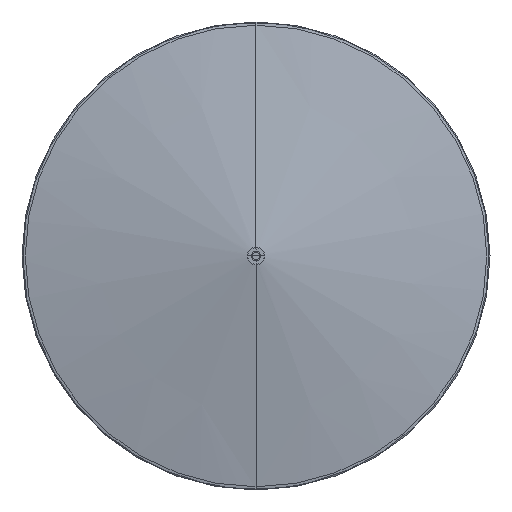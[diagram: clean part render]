
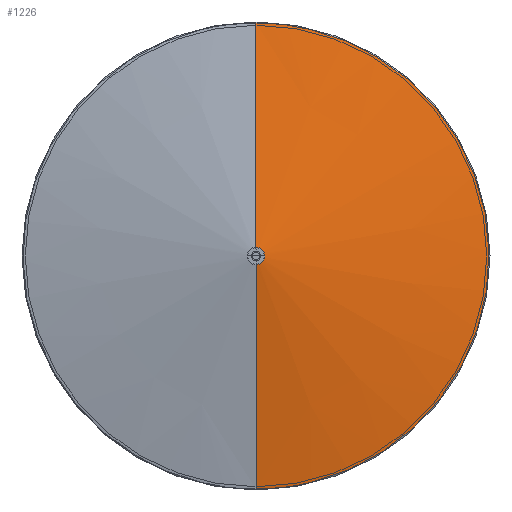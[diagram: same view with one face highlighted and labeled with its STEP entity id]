
A CAD part, top view. The second image highlights one B-rep face of the part: STEP entity #1226.
In plain terms, the highlighted conical face has half-angle 79.72 degrees and reference radius 26.347 mm.
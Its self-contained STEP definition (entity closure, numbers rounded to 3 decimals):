
#97=B_SPLINE_CURVE_WITH_KNOTS('',3,(#2183,#2184,#2185,#2186),
 .UNSPECIFIED.,.F.,.F.,(4,4),(0.923,1.),.UNSPECIFIED.);
#98=B_SPLINE_CURVE_WITH_KNOTS('',3,(#2188,#2189,#2190,#2191,#2192,#2193,
#2194,#2195,#2196,#2197,#2198,#2199,#2200,#2201),.UNSPECIFIED.,.F.,.F.,
(4,1,1,1,1,1,1,1,1,1,1,4),(0.077,0.154,0.231,
0.308,0.385,0.462,0.538,
0.615,0.692,0.769,0.846,
0.923),.UNSPECIFIED.);
#99=B_SPLINE_CURVE_WITH_KNOTS('',3,(#2203,#2204,#2205,#2206),
 .UNSPECIFIED.,.F.,.F.,(4,4),(0.,0.077),.UNSPECIFIED.);
#133=CONICAL_SURFACE('',#1373,26.347,1.391);
#187=FACE_OUTER_BOUND('',#280,.T.);
#280=EDGE_LOOP('',(#971,#972,#973,#974,#975,#976));
#370=CIRCLE('',#1374,7.147);
#437=LINE('',#2286,#509);
#438=LINE('',#2289,#510);
#509=VECTOR('',#1680,304.8);
#510=VECTOR('',#1683,304.8);
#585=VERTEX_POINT('',#2129);
#586=VERTEX_POINT('',#2182);
#587=VERTEX_POINT('',#2187);
#588=VERTEX_POINT('',#2202);
#591=VERTEX_POINT('',#2285);
#592=VERTEX_POINT('',#2287);
#716=EDGE_CURVE('',#586,#585,#97,.T.);
#717=EDGE_CURVE('',#587,#586,#98,.T.);
#718=EDGE_CURVE('',#588,#587,#99,.T.);
#723=EDGE_CURVE('',#591,#585,#437,.T.);
#724=EDGE_CURVE('',#592,#591,#370,.T.);
#725=EDGE_CURVE('',#588,#592,#438,.T.);
#971=ORIENTED_EDGE('',*,*,#718,.T.);
#972=ORIENTED_EDGE('',*,*,#717,.T.);
#973=ORIENTED_EDGE('',*,*,#716,.T.);
#974=ORIENTED_EDGE('',*,*,#723,.F.);
#975=ORIENTED_EDGE('',*,*,#724,.F.);
#976=ORIENTED_EDGE('',*,*,#725,.F.);
#1226=ADVANCED_FACE('',(#187),#133,.T.);
#1373=AXIS2_PLACEMENT_3D('',#2284,#1678,#1679);
#1374=AXIS2_PLACEMENT_3D('',#2288,#1681,#1682);
#1678=DIRECTION('center_axis',(0.,0.,
-1.));
#1679=DIRECTION('ref_axis',(1.,0.,0.));
#1680=DIRECTION('',(0.,0.984,-0.178));
#1681=DIRECTION('center_axis',(0.,0.,1.));
#1682=DIRECTION('ref_axis',(-0.588,-0.809,0.));
#1683=DIRECTION('',(0.,0.984,0.178));
#2129=CARTESIAN_POINT('',(0.,199.149,-34.824));
#2182=CARTESIAN_POINT('',(47.659,193.362,-34.824));
#2183=CARTESIAN_POINT('Ctrl Pts',(47.659,193.362,-34.824));
#2184=CARTESIAN_POINT('Ctrl Pts',(32.086,197.212,-34.824));
#2185=CARTESIAN_POINT('Ctrl Pts',(16.052,199.189,-34.824));
#2186=CARTESIAN_POINT('Ctrl Pts',(0.,199.149,
-34.824));
#2187=CARTESIAN_POINT('',(47.659,-193.362,-34.824));
#2188=CARTESIAN_POINT('Ctrl Pts',(47.659,-193.362,-34.824));
#2189=CARTESIAN_POINT('Ctrl Pts',(63.233,-189.513,-34.824));
#2190=CARTESIAN_POINT('Ctrl Pts',(93.456,-178.067,-34.824));
#2191=CARTESIAN_POINT('Ctrl Pts',(133.352,-150.522,-34.824));
#2192=CARTESIAN_POINT('Ctrl Pts',(165.5,-114.236,-34.824));
#2193=CARTESIAN_POINT('Ctrl Pts',(188.029,-71.31,-34.824));
#2194=CARTESIAN_POINT('Ctrl Pts',(199.631,-24.24,-34.824));
#2195=CARTESIAN_POINT('Ctrl Pts',(199.631,24.24,-34.824));
#2196=CARTESIAN_POINT('Ctrl Pts',(188.029,71.31,-34.824));
#2197=CARTESIAN_POINT('Ctrl Pts',(165.5,114.236,-34.824));
#2198=CARTESIAN_POINT('Ctrl Pts',(133.352,150.522,-34.824));
#2199=CARTESIAN_POINT('Ctrl Pts',(93.456,178.067,-34.824));
#2200=CARTESIAN_POINT('Ctrl Pts',(63.233,189.513,-34.824));
#2201=CARTESIAN_POINT('Ctrl Pts',(47.659,193.362,-34.824));
#2202=CARTESIAN_POINT('',(0.,-199.149,-34.824));
#2203=CARTESIAN_POINT('Ctrl Pts',(0.,-199.149,
-34.824));
#2204=CARTESIAN_POINT('Ctrl Pts',(16.052,-199.189,-34.824));
#2205=CARTESIAN_POINT('Ctrl Pts',(32.086,-197.212,-34.824));
#2206=CARTESIAN_POINT('Ctrl Pts',(47.659,-193.362,-34.824));
#2284=CARTESIAN_POINT('Origin',(0.,0.,
-3.482));
#2285=CARTESIAN_POINT('',(0.,7.147,0.));
#2286=CARTESIAN_POINT('',(0.,7.147,0.));
#2287=CARTESIAN_POINT('',(0.,-7.147,0.));
#2288=CARTESIAN_POINT('Origin',(0.,0.,
0.));
#2289=CARTESIAN_POINT('',(0.,-199.149,-34.824));
